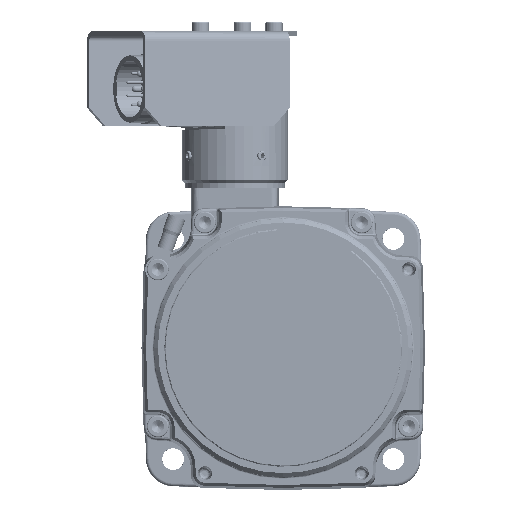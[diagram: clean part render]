
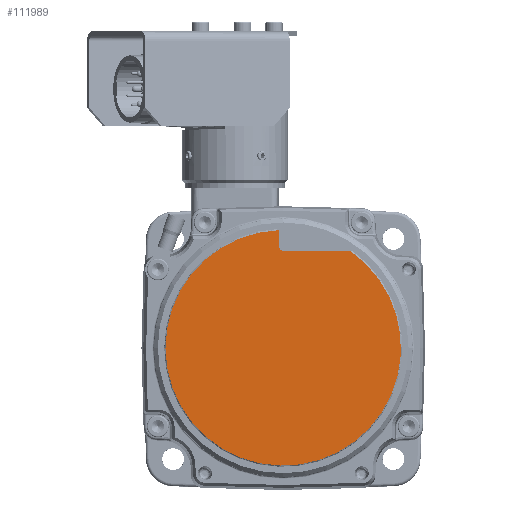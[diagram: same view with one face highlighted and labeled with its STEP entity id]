
A CAD part, top view. The second image highlights one B-rep face of the part: STEP entity #111989.
In plain terms, the highlighted planar face has unit normal (0, 0, 1).
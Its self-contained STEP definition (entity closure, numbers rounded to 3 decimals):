
#104333=CARTESIAN_POINT('',(-1.5,37.77,60.3));
#104335=CARTESIAN_POINT('',(0.,0.,60.3));
#104336=DIRECTION('',(0.,0.,-1.));
#104337=DIRECTION('',(0.572,0.82,0.));
#104338=AXIS2_PLACEMENT_3D('',#104335,#104336,#104337);
#104361=CARTESIAN_POINT('',(0.5,33.,60.3));
#104362=DIRECTION('',(0.,0.,-1.));
#104363=DIRECTION('',(0.,-1.,0.));
#104364=AXIS2_PLACEMENT_3D('',#104361,#104362,#104363);
#104383=DIRECTION('',(0.,-1.,0.));
#104384=VECTOR('',#104383,4.77);
#104385=CARTESIAN_POINT('',(-1.5,37.77,60.3));
#104386=LINE('',#104385,#104384);
#104387=DIRECTION('',(1.,0.,0.));
#104388=VECTOR('',#104387,21.13);
#104389=CARTESIAN_POINT('',(0.5,31.,60.3));
#104390=LINE('',#104389,#104388);
#104856=CARTESIAN_POINT('',(0.5,31.,60.3));
#104858=VERTEX_POINT('',#104856);
#104860=CARTESIAN_POINT('',(-1.5,33.,60.3));
#104862=VERTEX_POINT('',#104860);
#104876=VERTEX_POINT('',#104333);
#104877=CARTESIAN_POINT('',(21.63,31.,60.3));
#104878=VERTEX_POINT('',#104877);
#111978=CARTESIAN_POINT('',(0.,0.,60.3));
#111979=DIRECTION('',(0.,0.,1.));
#111980=DIRECTION('',(1.,0.,0.));
#111981=AXIS2_PLACEMENT_3D('',#111978,#111979,#111980);
#111982=PLANE('',#111981);
#111983=ORIENTED_EDGE('',*,*,#111926,.T.);
#111984=ORIENTED_EDGE('',*,*,#111944,.T.);
#111985=ORIENTED_EDGE('',*,*,#111956,.F.);
#111986=ORIENTED_EDGE('',*,*,#111969,.T.);
#111987=EDGE_LOOP('',(#111983,#111984,#111985,#111986));
#111988=FACE_OUTER_BOUND('',#111987,.F.);
#111989=ADVANCED_FACE('',(#111988),#111982,.T.);
#104339=CIRCLE('',#104338,37.8);
#104365=CIRCLE('',#104364,2.);
#111926=EDGE_CURVE('',#104878,#104876,#104339,.T.);
#111944=EDGE_CURVE('',#104876,#104862,#104386,.T.);
#111956=EDGE_CURVE('',#104858,#104862,#104365,.T.);
#111969=EDGE_CURVE('',#104858,#104878,#104390,.T.);
